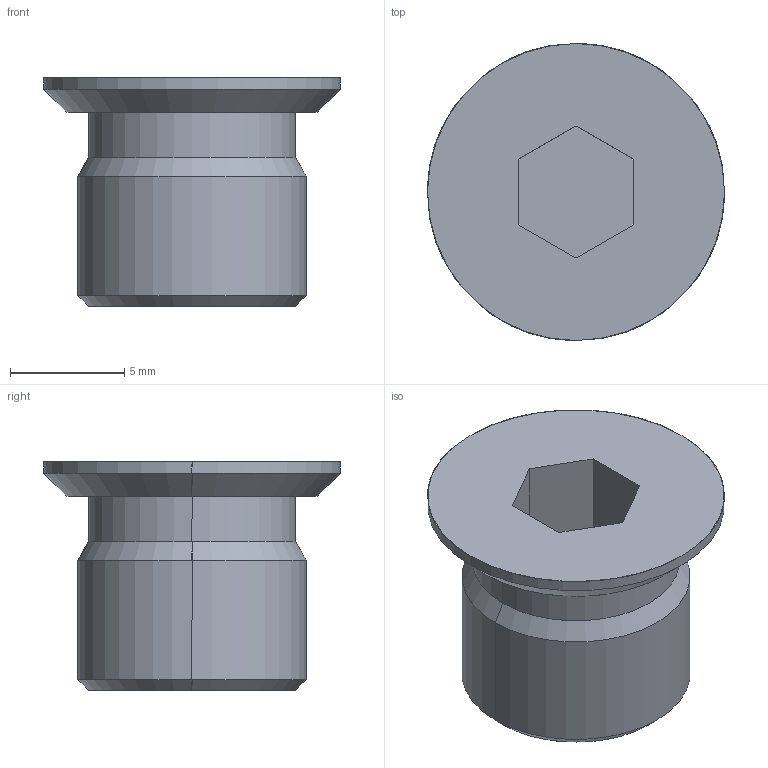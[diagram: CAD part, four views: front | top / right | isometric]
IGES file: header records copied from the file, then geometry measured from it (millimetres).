
Global section: file name: E:\UnigraphicsGraphicData\MISUMI_PRESS-PARTS\IGES\3d_mswzs10-10_00489_r00.igs; native system: NX V5.0; preprocessor: UGS NX IGES V5.0; author: MISUMI; date: 20110105.161529; units: millimetre
Bounding box: 13 x 13 x 10 mm (x, y, z)
Surface area: 640.4 mm2 (no closed solid volume)
Topology: 0 solids, 0 shells, 22 faces, 116 edges, 116 vertices
Faces by surface type: bspline 22
